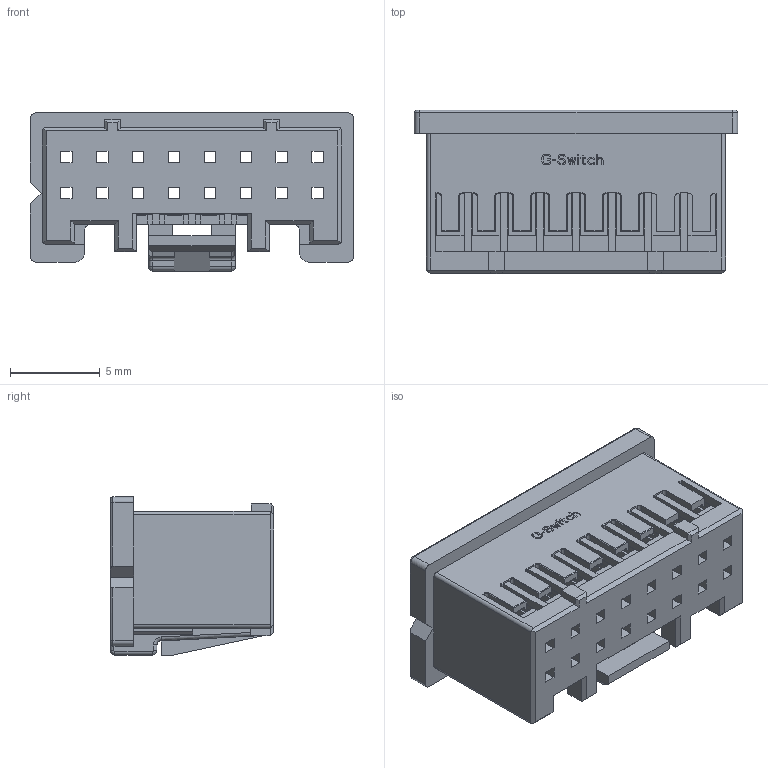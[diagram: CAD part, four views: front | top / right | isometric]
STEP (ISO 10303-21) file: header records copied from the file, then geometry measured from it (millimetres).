
FILE_DESCRIPTION((''),'2;1');
FILE_NAME('16','2026-06-02T',('WYH'),(''),'PRO/ENGINEER BY PARAMETRIC TECHNOLOGY CORPORATION, 2013040','PRO/ENGINEER BY PARAMETRIC TECHNOLOGY CORPORATION, 2013040','');
FILE_SCHEMA(('CONFIG_CONTROL_DESIGN'));
Length unit declared in the file: millimetre
Products named in the file (1): 16
Bounding box: 18 x 9.1 x 8.8 mm (x, y, z)
Volume: 552.1 mm3; surface area: 1923.7 mm2
Topology: 2 solids, 2 shells, 933 faces, 2669 edges, 1733 vertices
Faces by surface type: plane 860, cylinder 47, cone 12, bspline 8, torus 6
Entity records: 29999 total; most frequent: CARTESIAN_POINT 5503, ORIENTED_EDGE 5338, DIRECTION 4617, EDGE_CURVE 2669, VECTOR 2543, LINE 2543, VERTEX_POINT 1733, AXIS2_PLACEMENT_3D 1037
